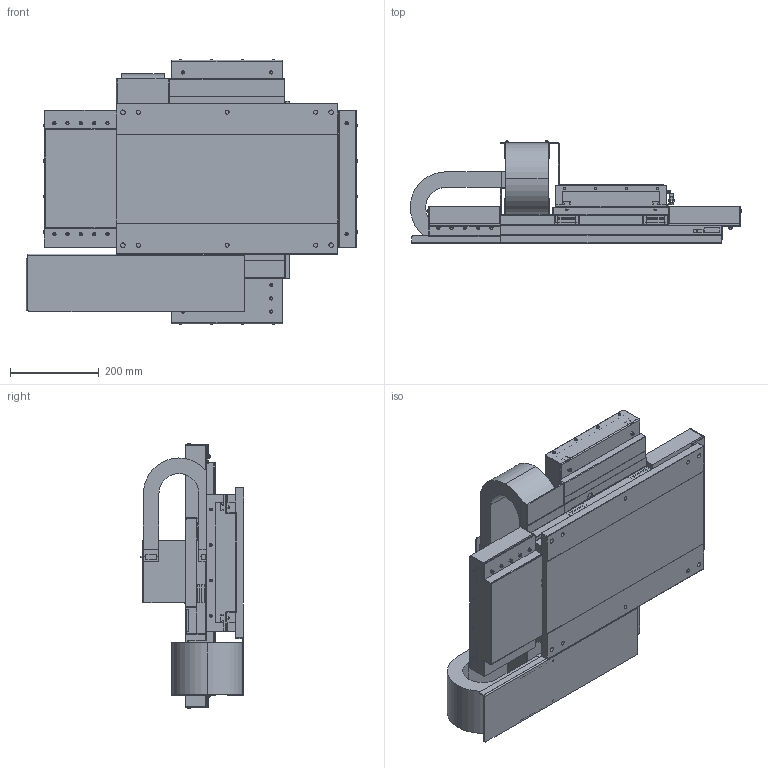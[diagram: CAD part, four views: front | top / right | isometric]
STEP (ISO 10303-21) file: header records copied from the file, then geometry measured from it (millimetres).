
FILE_DESCRIPTION (( 'STEP AP214' ), '1' );
FILE_NAME ('NST-D20B320A3BPJB_#2.00_0.STEP', '2021-03-26T06:48:15', ( '' ), ( '' ), 'SwSTEP 2.0', 'SolidWorks 2018', '' );
FILE_SCHEMA (( 'AUTOMOTIVE_DESIGN' ));
Length unit declared in the file: millimetre
Products named in the file (8): 17YK1440_Org; AUA01910; AUA01740; NST-D20B320A3BPJB_#2.00_0; A6A00940_+側_Org; A6A02960_+側; AUA01920; 17YK1240_Org
Assembly tree (9 placements, depth 2):
  NST-D20B320A3BPJB_#2.00_0
    AUA01910
    AUA01920
    AUA01740
    17YK1440_Org
    17YK1240_Org
    A6A02960_+側  x2
    A6A00940_+側_Org  x2
Bounding box: 748.28 x 233 x 600 mm (x, y, z)
Volume: 13861537.6 mm3; surface area: 3199878.1 mm2
Topology: 67 solids, 67 shells, 2517 faces, 6351 edges, 4033 vertices
Faces by surface type: plane 1716, cylinder 703, torus 40, cone 38, sphere 16, bspline 4
Entity records: 96425 total; most frequent: CARTESIAN_POINT 14353, DIRECTION 12129, ORIENTED_EDGE 12034, EDGE_CURVE 6017, LINE 4343, VECTOR 4343, AXIS2_PLACEMENT_3D 3893, VERTEX_POINT 3841
